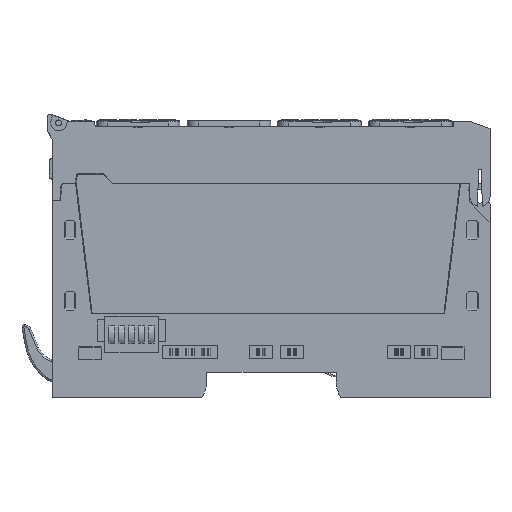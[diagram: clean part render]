
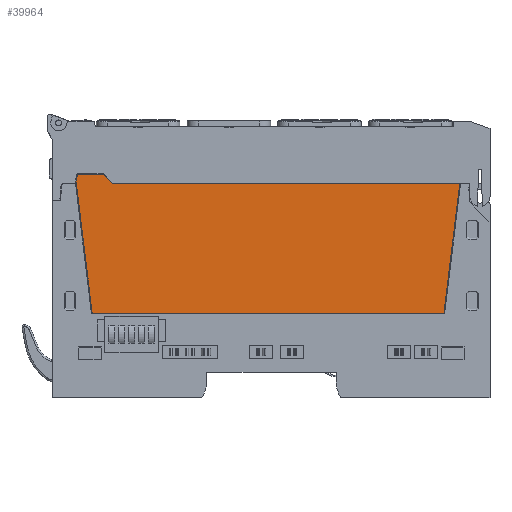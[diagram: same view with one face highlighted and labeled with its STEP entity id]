
A CAD part, top view. The second image highlights one B-rep face of the part: STEP entity #39964.
In plain terms, the highlighted planar face has unit normal (0, 0, 1).
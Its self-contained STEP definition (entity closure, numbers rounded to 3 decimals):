
#39904=AXIS2_PLACEMENT_3D('Plane Axis2P3D',#39901,#39902,#39903) ;
#39936=AXIS2_PLACEMENT_3D('Circle Axis2P3D',#39934,#39935,$) ;
#36602=CARTESIAN_POINT('Vertex',(47.15,16.1,11.5)) ;
#36605=CARTESIAN_POINT('Line Origine',(-0.9,16.1,11.5)) ;
#36609=CARTESIAN_POINT('Vertex',(-48.95,16.1,11.5)) ;
#39885=CARTESIAN_POINT('Vertex',(51.497,51.5,11.5)) ;
#39888=CARTESIAN_POINT('Line Origine',(49.323,33.8,11.5)) ;
#39901=CARTESIAN_POINT('Axis2P3D Location',(0.,0.,11.5)) ;
#39906=CARTESIAN_POINT('Line Origine',(-51.123,33.8,11.5)) ;
#39910=CARTESIAN_POINT('Vertex',(-53.297,51.5,11.5)) ;
#39913=CARTESIAN_POINT('Line Origine',(4.05,51.5,11.5)) ;
#39917=CARTESIAN_POINT('Vertex',(-43.396,51.5,11.5)) ;
#39920=CARTESIAN_POINT('Line Origine',(-44.684,52.8,11.5)) ;
#39924=CARTESIAN_POINT('Vertex',(-45.971,54.1,11.5)) ;
#39927=CARTESIAN_POINT('Line Origine',(-49.265,54.1,11.5)) ;
#39931=CARTESIAN_POINT('Vertex',(-52.558,54.1,11.5)) ;
#39934=CARTESIAN_POINT('Axis2P3D Location',(-52.558,53.6,11.5)) ;
#39938=CARTESIAN_POINT('Vertex',(-53.051,53.686,11.5)) ;
#39941=CARTESIAN_POINT('Line Origine',(-53.174,52.982,11.5)) ;
#39945=CARTESIAN_POINT('Vertex',(-53.297,52.277,11.5)) ;
#39948=CARTESIAN_POINT('Line Origine',(-53.297,51.889,11.5)) ;
#36606=DIRECTION('Vector Direction',(-1.,0.,0.)) ;
#39889=DIRECTION('Vector Direction',(0.122,0.993,0.)) ;
#39902=DIRECTION('Axis2P3D Direction',(0.,0.,1.)) ;
#39903=DIRECTION('Axis2P3D XDirection',(1.,0.,0.)) ;
#39907=DIRECTION('Vector Direction',(0.122,-0.993,0.)) ;
#39914=DIRECTION('Vector Direction',(1.,0.,0.)) ;
#39921=DIRECTION('Vector Direction',(-0.704,0.71,0.)) ;
#39928=DIRECTION('Vector Direction',(-1.,0.,0.)) ;
#39935=DIRECTION('Axis2P3D Direction',(0.,0.,1.)) ;
#39942=DIRECTION('Vector Direction',(-0.172,-0.985,0.)) ;
#39949=DIRECTION('Vector Direction',(0.,-1.,0.)) ;
#36607=VECTOR('Line Direction',#36606,1.) ;
#39890=VECTOR('Line Direction',#39889,1.) ;
#39908=VECTOR('Line Direction',#39907,1.) ;
#39915=VECTOR('Line Direction',#39914,1.) ;
#39922=VECTOR('Line Direction',#39921,1.) ;
#39929=VECTOR('Line Direction',#39928,1.) ;
#39943=VECTOR('Line Direction',#39942,1.) ;
#39950=VECTOR('Line Direction',#39949,1.) ;
#39954=ORIENTED_EDGE('',*,*,#39912,.T.) ;
#39955=ORIENTED_EDGE('',*,*,#36611,.T.) ;
#39956=ORIENTED_EDGE('',*,*,#39892,.T.) ;
#39957=ORIENTED_EDGE('',*,*,#39919,.T.) ;
#39958=ORIENTED_EDGE('',*,*,#39926,.T.) ;
#39959=ORIENTED_EDGE('',*,*,#39933,.T.) ;
#39960=ORIENTED_EDGE('',*,*,#39940,.T.) ;
#39961=ORIENTED_EDGE('',*,*,#39947,.T.) ;
#39962=ORIENTED_EDGE('',*,*,#39952,.T.) ;
#39964=ADVANCED_FACE('SP_UR20_EM.1\\SP_UR20_HO_EM.1\\ELGH_BASIC',(#39963),#39905,.T.) ;
#39937=CIRCLE('generated circle',#39936,0.5) ;
#36611=EDGE_CURVE('',#36610,#36603,#36608,.F.) ;
#39892=EDGE_CURVE('',#36603,#39886,#39891,.T.) ;
#39912=EDGE_CURVE('',#39911,#36610,#39909,.T.) ;
#39919=EDGE_CURVE('',#39886,#39918,#39916,.F.) ;
#39926=EDGE_CURVE('',#39918,#39925,#39923,.T.) ;
#39933=EDGE_CURVE('',#39925,#39932,#39930,.T.) ;
#39940=EDGE_CURVE('',#39932,#39939,#39937,.T.) ;
#39947=EDGE_CURVE('',#39939,#39946,#39944,.T.) ;
#39952=EDGE_CURVE('',#39946,#39911,#39951,.T.) ;
#39953=EDGE_LOOP('',(#39954,#39955,#39956,#39957,#39958,#39959,#39960,#39961,#39962)) ;
#39963=FACE_OUTER_BOUND('',#39953,.T.) ;
#36608=LINE('Line',#36605,#36607) ;
#39891=LINE('Line',#39888,#39890) ;
#39909=LINE('Line',#39906,#39908) ;
#39916=LINE('Line',#39913,#39915) ;
#39923=LINE('Line',#39920,#39922) ;
#39930=LINE('Line',#39927,#39929) ;
#39944=LINE('Line',#39941,#39943) ;
#39951=LINE('Line',#39948,#39950) ;
#39905=PLANE('',#39904) ;
#36603=VERTEX_POINT('',#36602) ;
#36610=VERTEX_POINT('',#36609) ;
#39886=VERTEX_POINT('',#39885) ;
#39911=VERTEX_POINT('',#39910) ;
#39918=VERTEX_POINT('',#39917) ;
#39925=VERTEX_POINT('',#39924) ;
#39932=VERTEX_POINT('',#39931) ;
#39939=VERTEX_POINT('',#39938) ;
#39946=VERTEX_POINT('',#39945) ;
